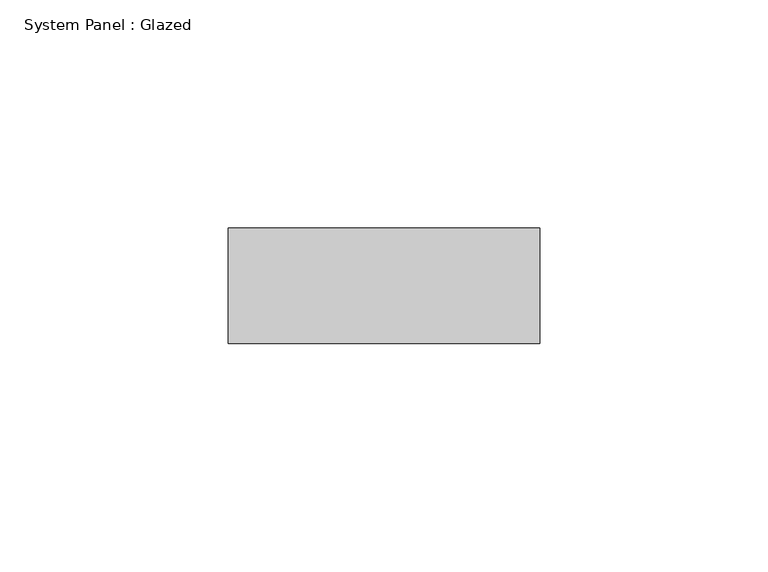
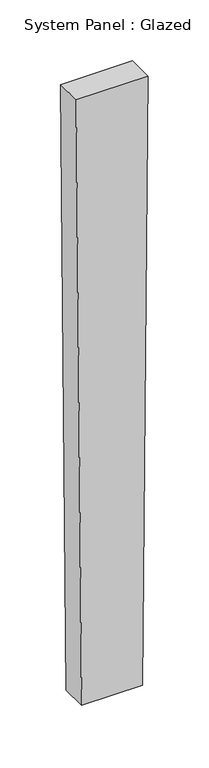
"""IFC4 building model written with IfcOpenShell, lengths in millimetres: plate geometry, System Panel : Glazed."""

from ifc_helpers import new_model, si_unit, frame, origin, place, context, project, spatial, polyline, outline, extrude, source, transform, mapped, element, save


def system_panel_glazed_dfb34fb8(model_context):
    return source(origin(), model_context, "Body", "SweptSolid", [
        extrude(outline(polyline([(0.0, -29.0280782), (0.0, 29.0280782), (609.5781683, 34.187216), (609.5781683, -34.187216), (0.0, -29.0280782)])), frame((0.0, -44.45, 0.0), z_axis=(0.0, 1.0, 0.0), x_axis=(0.0, 0.0, 1.0)), (0.0, 0.0, 1.0), 25.4),
    ])


if __name__ == "__main__":
    model = new_model("IFC4")
    model_context = context("Model", 3, world=origin())
    ifc_project = project(units=[si_unit("LENGTHUNIT", "METRE", prefix="MILLI")], contexts=[model_context])
    site = spatial("IfcSite", under=ifc_project)
    building = spatial("IfcBuilding", under=site)
    placement = place(None, origin())
    system_panel_glazed_shape = system_panel_glazed_dfb34fb8(model_context)
    element("IfcPlate", 1, ObjectType="System Panel : Glazed", at=placement, inside=building, context=model_context, shape_type="MappedRepresentation", body=[
        mapped(system_panel_glazed_shape, transform((0.0, 0.0, 0.0), x_axis=(1.0, 0.0, 0.0), y_axis=(0.0, 1.0, 0.0), z_axis=(0.0, 0.0, 1.0))),
    ])
    save(model, "model.ifc")
